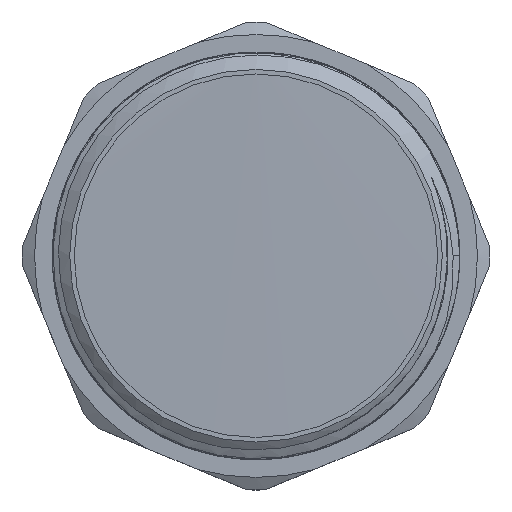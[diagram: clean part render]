
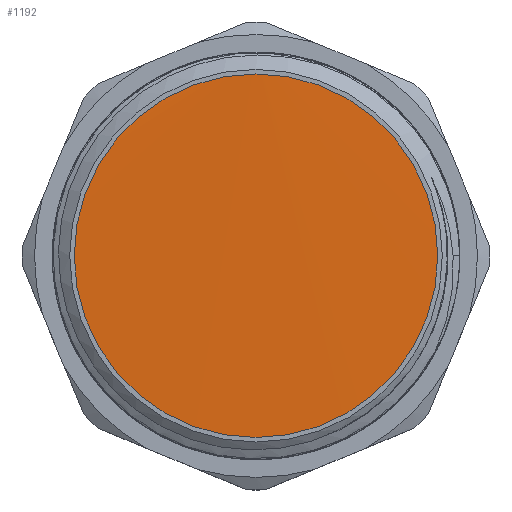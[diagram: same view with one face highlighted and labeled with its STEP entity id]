
A CAD part, top view. The second image highlights one B-rep face of the part: STEP entity #1192.
In plain terms, the highlighted cylindrical face has radius 28.3 mm (diameter 56.6 mm), a full revolution.
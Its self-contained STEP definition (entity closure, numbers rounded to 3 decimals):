
#147=FACE_OUTER_BOUND('',#216,.T.);
#216=EDGE_LOOP('',(#810,#811,#812));
#297=B_SPLINE_CURVE_WITH_KNOTS('',3,(#2186,#2187,#2188,#2189,#2190,#2191,
#2192,#2193,#2194,#2195,#2196,#2197,#2198,#2199,#2200,#2201,#2202),
 .UNSPECIFIED.,.F.,.F.,(4,1,1,1,1,1,1,1,1,1,1,1,1,1,4),(28.274,
28.607,29.101,29.594,30.087,30.58,
31.073,31.566,32.059,32.552,33.046,
33.539,34.032,34.525,34.558),
 .UNSPECIFIED.);
#346=LINE('',#1624,#397);
#357=LINE('',#2185,#408);
#397=VECTOR('',#1373,28.3);
#408=VECTOR('',#1410,28.3);
#448=VERTEX_POINT('',#1622);
#449=VERTEX_POINT('',#1623);
#471=VERTEX_POINT('',#2184);
#576=EDGE_CURVE('',#448,#449,#346,.T.);
#608=EDGE_CURVE('',#471,#449,#357,.T.);
#609=EDGE_CURVE('',#471,#448,#297,.T.);
#810=ORIENTED_EDGE('',*,*,#576,.T.);
#811=ORIENTED_EDGE('',*,*,#608,.F.);
#812=ORIENTED_EDGE('',*,*,#609,.T.);
#1166=CYLINDRICAL_SURFACE('',#1283,28.3);
#1192=ADVANCED_FACE('',(#147),#1166,.T.);
#1283=AXIS2_PLACEMENT_3D('',#2183,#1408,#1409);
#1373=DIRECTION('',(0.,0.,1.));
#1408=DIRECTION('center_axis',(0.,0.,1.));
#1409=DIRECTION('ref_axis',(0.,-1.,0.));
#1410=DIRECTION('',(0.,0.,-1.));
#1622=CARTESIAN_POINT('',(0.,28.3,9.359));
#1623=CARTESIAN_POINT('',(0.,28.3,11.651));
#1624=CARTESIAN_POINT('',(0.,28.3,0.));
#2183=CARTESIAN_POINT('Origin',(0.,0.,0.));
#2184=CARTESIAN_POINT('',(0.,28.3,11.659));
#2185=CARTESIAN_POINT('',(0.,28.3,0.));
#2186=CARTESIAN_POINT('Ctrl Pts',(-0.001,28.299,
11.659));
#2187=CARTESIAN_POINT('Ctrl Pts',(3.142,28.296,11.618));
#2188=CARTESIAN_POINT('Ctrl Pts',(10.938,27.001,11.517));
#2189=CARTESIAN_POINT('Ctrl Pts',(21.673,19.973,11.356));
#2190=CARTESIAN_POINT('Ctrl Pts',(28.546,7.334,11.176));
#2191=CARTESIAN_POINT('Ctrl Pts',(28.616,-7.053,10.995));
#2192=CARTESIAN_POINT('Ctrl Pts',(21.868,-19.76,10.815));
#2193=CARTESIAN_POINT('Ctrl Pts',(9.908,-27.757,10.634));
#2194=CARTESIAN_POINT('Ctrl Pts',(-4.412,-29.141,10.454));
#2195=CARTESIAN_POINT('Ctrl Pts',(-17.681,-23.58,10.273));
#2196=CARTESIAN_POINT('Ctrl Pts',(-26.737,-12.4,10.093));
#2197=CARTESIAN_POINT('Ctrl Pts',(-29.422,1.734,9.912));
#2198=CARTESIAN_POINT('Ctrl Pts',(-25.095,15.456,9.732));
#2199=CARTESIAN_POINT('Ctrl Pts',(-14.789,25.494,9.551));
#2200=CARTESIAN_POINT('Ctrl Pts',(-5.264,28.223,9.427));
#2201=CARTESIAN_POINT('Ctrl Pts',(-0.307,28.302,9.363));
#2202=CARTESIAN_POINT('Ctrl Pts',(0.,28.302,
9.359));
